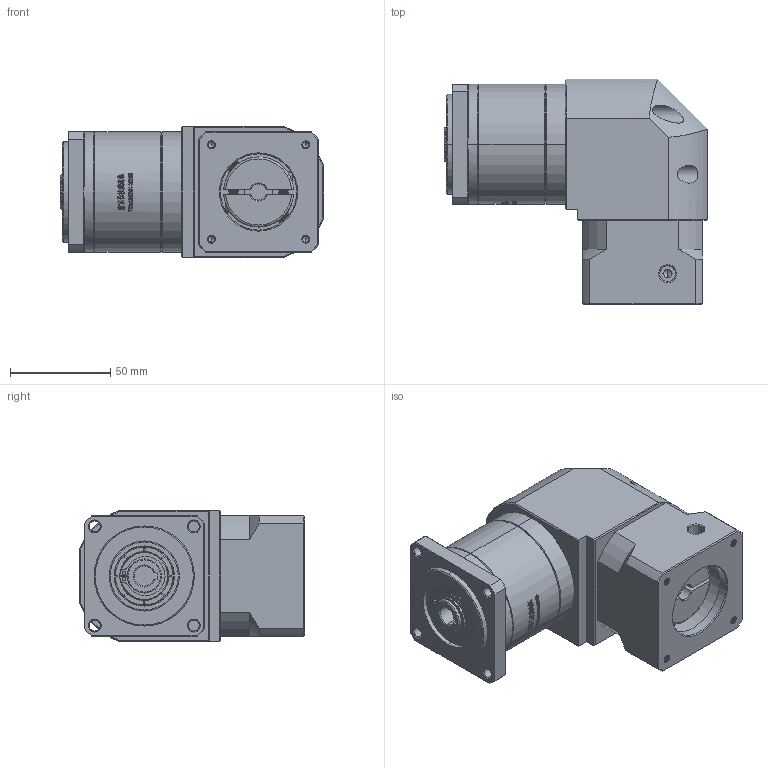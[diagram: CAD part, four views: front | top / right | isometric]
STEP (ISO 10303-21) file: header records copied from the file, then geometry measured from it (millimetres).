
FILE_DESCRIPTION (( 'STEP AP214' ), '1' );
FILE_NAME ('ZFR60-K10-L1-8-38.1-47.14x47.14-M4.STEP', '2022-04-20T08:22:58', ( '' ), ( 'Microsoft' ), 'SwSTEP 2.0', 'SolidWorks 2016', '' );
FILE_SCHEMA (( 'AUTOMOTIVE_DESIGN' ));
Length unit declared in the file: millimetre
Products named in the file (1): ZFR60-K10-L1-8-38.1-47.14x47.14-M4
Bounding box: 131.5 x 112.7 x 65 mm (x, y, z)
Volume: 535059.3 mm3; surface area: 78987.9 mm2
Topology: 5 solids, 6 shells, 2622 faces, 7155 edges, 4670 vertices
Faces by surface type: plane 1391, bspline 572, cylinder 353, cone 282, torus 24
Entity records: 140543 total; most frequent: CARTESIAN_POINT 50611, ORIENTED_EDGE 14270, DIRECTION 10320, EDGE_CURVE 7135, VERTEX_POINT 4670, LINE 4320, VECTOR 4320, AXIS2_PLACEMENT_3D 3000
